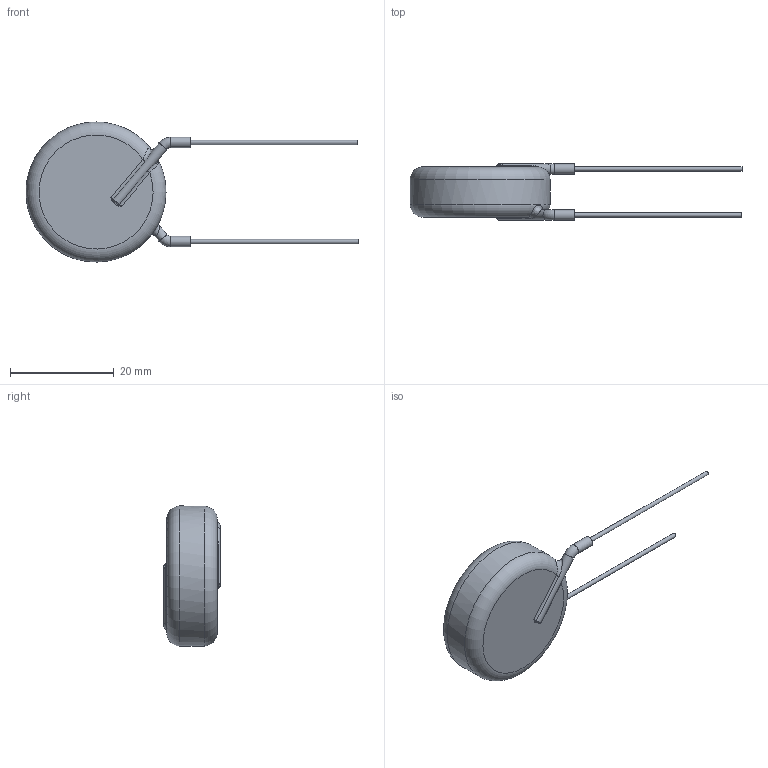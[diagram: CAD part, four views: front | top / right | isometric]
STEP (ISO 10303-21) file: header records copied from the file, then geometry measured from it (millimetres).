
FILE_DESCRIPTION((''),'2;1');
FILE_NAME('I:\Marketing\M6t1\3D-Models\Zchng-Werk-3\Upload for homepage\Ceramite\T3M-15kV\615R150GATT75\615R150GATT75.stp','2015-08-28T11:58:25',(''),(''),'Autodesk Inventor 2013','Autodesk Inventor 2013','');
FILE_SCHEMA(('AUTOMOTIVE_DESIGN { 1 0 10303 214 1 1 1 1 }'));
Length unit declared in the file: centimetre
Products named in the file (1): 615R150GATT75
Bounding box: 64 x 10.9 x 27 mm (x, y, z)
Volume: 5450.5 mm3; surface area: 2061.4 mm2
Topology: 1 solids, 1 shells, 41 faces, 92 edges, 51 vertices
Faces by surface type: cylinder 13, bspline 10, torus 10, plane 8
Full cylindrical faces by diameter (mm): 0.81 x2, 2 x4, 27 x1
Entity records: 1515 total; most frequent: CARTESIAN_POINT 682, DIRECTION 152, ORIENTED_EDGE 140, AXIS2_PLACEMENT_3D 70, EDGE_CURVE 70, EDGE_LOOP 54, VERTEX_POINT 44, STYLED_ITEM 42
